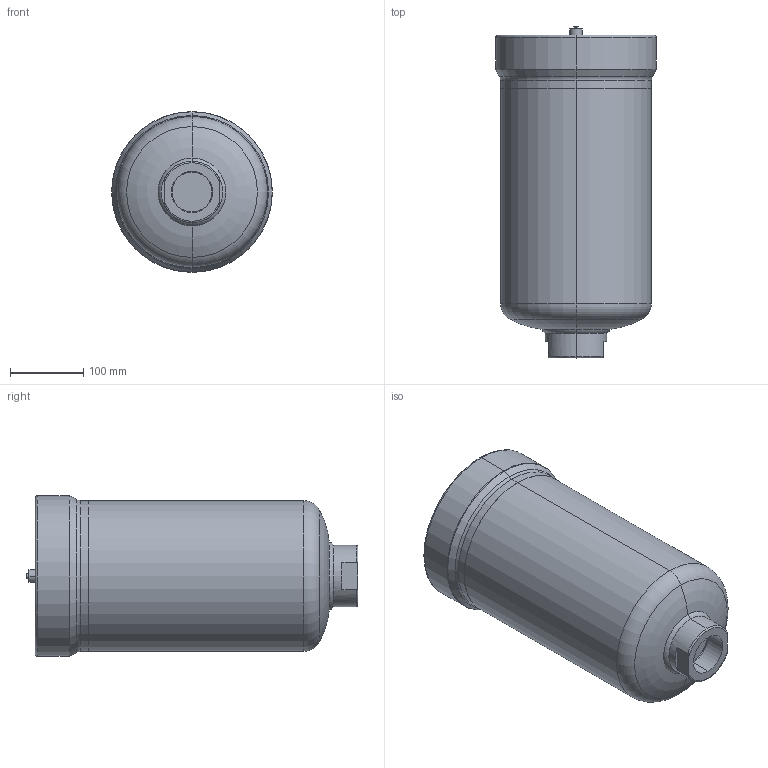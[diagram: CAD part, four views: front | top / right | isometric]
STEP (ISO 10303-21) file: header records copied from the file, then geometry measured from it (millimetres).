
FILE_DESCRIPTION (( 'STEP AP214' ), '1' );
FILE_NAME ('U100A03X1-AI.STEP', '2025-05-28T10:07:50', ( '' ), ( '' ), 'SwSTEP 2.0', 'SolidWorks 2024', '' );
FILE_SCHEMA (( 'AUTOMOTIVE_DESIGN' ));
Length unit declared in the file: millimetre
Products named in the file (1): U100A03X1-AI
Bounding box: 220 x 454.03 x 220 mm (x, y, z)
Volume: 13163112.7 mm3; surface area: 367609.1 mm2
Topology: 8 solids, 9 shells, 303 faces, 670 edges, 395 vertices
Faces by surface type: plane 113, cylinder 86, torus 62, cone 38, sphere 4
Entity records: 8530 total; most frequent: DIRECTION 1594, CARTESIAN_POINT 1569, ORIENTED_EDGE 1316, AXIS2_PLACEMENT_3D 658, EDGE_CURVE 658, VERTEX_POINT 395, CIRCLE 354, EDGE_LOOP 343
